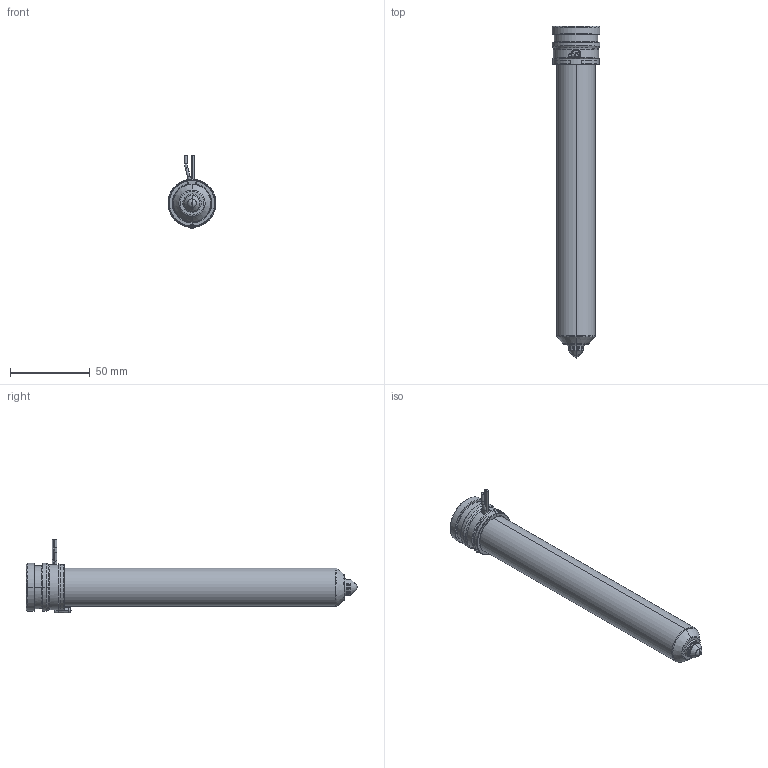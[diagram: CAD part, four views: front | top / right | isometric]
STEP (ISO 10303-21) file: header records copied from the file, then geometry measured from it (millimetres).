
FILE_DESCRIPTION((''),'2;1');
FILE_NAME('MPN-10-29-VX10-186-A','2026-02-05T12:41:42',('UPTIO'),('Thermoplay S.p.A.'),'CREO PARAMETRIC BY PTC INC, 2023494','CREO PARAMETRIC BY PTC INC, 2023494','');
FILE_SCHEMA(('CONFIG_CONTROL_DESIGN','SHAPE_APPEARANCE_LAYERS_GROUPS'));
Length unit declared in the file: millimetre
Products named in the file (1): MPN-10-29-VX10-186-A
Bounding box: 30 x 207.5 x 46 mm (x, y, z)
Volume: 63806.3 mm3; surface area: 64879.2 mm2
Topology: 2 solids, 3 shells, 557 faces, 1459 edges, 901 vertices
Faces by surface type: cylinder 182, plane 144, bspline 76, torus 72, cone 70, sphere 9, extrusion 4
Entity records: 30727 total; most frequent: CARTESIAN_POINT 14220, ORIENTED_EDGE 2906, DIRECTION 2711, EDGE_CURVE 1453, AXIS2_PLACEMENT_3D 1078, VERTEX_POINT 901, CIRCLE 600, EDGE_LOOP 586
